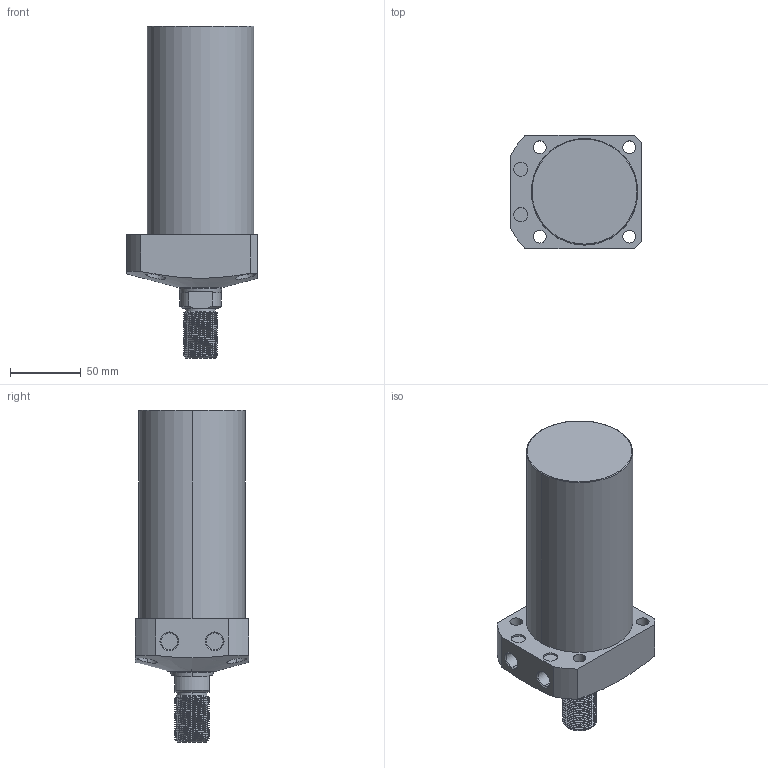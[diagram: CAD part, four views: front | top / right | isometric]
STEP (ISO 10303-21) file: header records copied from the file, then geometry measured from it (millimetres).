
FILE_DESCRIPTION (( 'STEP AP203' ), '1' );
FILE_NAME ('CLL-075CT-110.STEP', '2020-01-08T12:05:12', ( '' ), ( '' ), 'SwSTEP 2.0', 'SolidWorks 2015', '' );
FILE_SCHEMA (( 'CONFIG_CONTROL_DESIGN' ));
Length unit declared in the file: millimetre
Products named in the file (1): CLL-075CT-110
Bounding box: 92 x 80 x 234 mm (x, y, z)
Volume: 890518.4 mm3; surface area: 69595.1 mm2
Topology: 1 solids, 1 shells, 121 faces, 310 edges, 202 vertices
Faces by surface type: cylinder 77, plane 23, cone 17, torus 2, bspline 2
Entity records: 6547 total; most frequent: CARTESIAN_POINT 3757, ORIENTED_EDGE 620, DIRECTION 517, EDGE_CURVE 310, AXIS2_PLACEMENT_3D 204, VERTEX_POINT 202, EDGE_LOOP 140, FACE_OUTER_BOUND 121
